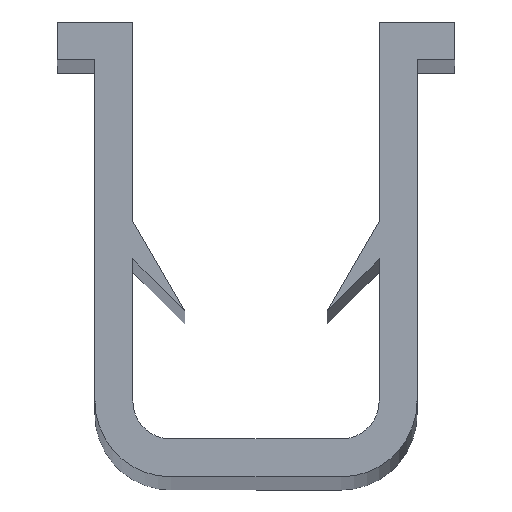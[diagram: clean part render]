
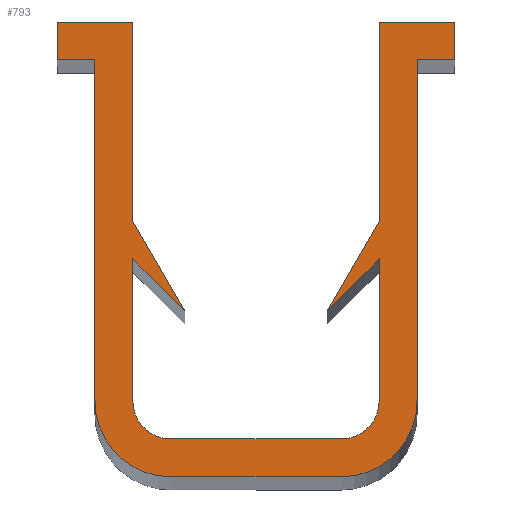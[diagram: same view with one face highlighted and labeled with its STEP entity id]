
A CAD part, top view. The second image highlights one B-rep face of the part: STEP entity #793.
In plain terms, the highlighted planar face has unit normal (0, 0, 1).
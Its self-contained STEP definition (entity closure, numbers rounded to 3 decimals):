
#51=CARTESIAN_POINT('',(3.25,6.748,200.0));
#52=VERTEX_POINT('',#51);
#59=CARTESIAN_POINT('',(3.25,12.,200.0));
#60=VERTEX_POINT('',#59);
#61=CARTESIAN_POINT('',(3.25,6.748,200.0));
#62=DIRECTION('',(0.0,1.0,0.0));
#63=VECTOR('',#62,5.252);
#64=LINE('',#61,#63);
#65=EDGE_CURVE('',#52,#60,#64,.T.);
#91=CARTESIAN_POINT('',(3.25,5.748,200.0));
#92=VERTEX_POINT('',#91);
#107=CARTESIAN_POINT('',(3.25,2.,200.0));
#108=VERTEX_POINT('',#107);
#115=CARTESIAN_POINT('',(3.25,2.,200.0));
#116=DIRECTION('',(0.0,1.0,0.0));
#117=VECTOR('',#116,3.748);
#118=LINE('',#115,#117);
#119=EDGE_CURVE('',#108,#92,#118,.T.);
#129=CARTESIAN_POINT('',(-5.25,12.,200.0));
#130=VERTEX_POINT('',#129);
#131=CARTESIAN_POINT('',(-3.25,12.,200.0));
#132=VERTEX_POINT('',#131);
#133=CARTESIAN_POINT('',(-5.25,12.,200.0));
#134=DIRECTION('',(1.0,0.0,0.0));
#135=VECTOR('',#134,2.0);
#136=LINE('',#133,#135);
#137=EDGE_CURVE('',#130,#132,#136,.T.);
#169=CARTESIAN_POINT('',(-3.25,6.748,200.0));
#170=VERTEX_POINT('',#169);
#171=CARTESIAN_POINT('',(-3.25,12.,200.0));
#172=DIRECTION('',(0.0,-1.0,0.0));
#173=VECTOR('',#172,5.252);
#174=LINE('',#171,#173);
#175=EDGE_CURVE('',#132,#170,#174,.T.);
#200=CARTESIAN_POINT('',(-1.884,4.382,200.0));
#201=VERTEX_POINT('',#200);
#202=CARTESIAN_POINT('',(-3.25,6.748,200.0));
#203=DIRECTION('',(0.5,-0.866,0.0));
#204=VECTOR('',#203,2.732);
#205=LINE('',#202,#204);
#206=EDGE_CURVE('',#170,#201,#205,.T.);
#231=CARTESIAN_POINT('',(-3.25,5.748,200.0));
#232=VERTEX_POINT('',#231);
#233=CARTESIAN_POINT('',(-1.884,4.382,200.0));
#234=DIRECTION('',(-0.707,0.707,0.0));
#235=VECTOR('',#234,1.932);
#236=LINE('',#233,#235);
#237=EDGE_CURVE('',#201,#232,#236,.T.);
#262=CARTESIAN_POINT('',(-3.25,2.,200.0));
#263=VERTEX_POINT('',#262);
#264=CARTESIAN_POINT('',(-3.25,5.748,200.0));
#265=DIRECTION('',(0.0,-1.0,0.0));
#266=VECTOR('',#265,3.748);
#267=LINE('',#264,#266);
#268=EDGE_CURVE('',#232,#263,#267,.T.);
#293=CARTESIAN_POINT('',(-2.25,1.0,200.0));
#294=VERTEX_POINT('',#293);
#295=CARTESIAN_POINT('',(-2.25,2.,200.0));
#296=DIRECTION('',(0.0,0.0,1.0));
#297=DIRECTION('',(1.0,0.0,0.0));
#298=AXIS2_PLACEMENT_3D('',#295,#296,#297);
#299=CIRCLE('',#298,1.);
#300=EDGE_CURVE('',#263,#294,#299,.T.);
#326=CARTESIAN_POINT('',(2.25,1.,200.0));
#327=VERTEX_POINT('',#326);
#328=CARTESIAN_POINT('',(-2.25,1.0,200.0));
#329=DIRECTION('',(1.0,0.0,0.0));
#330=VECTOR('',#329,4.5);
#331=LINE('',#328,#330);
#332=EDGE_CURVE('',#294,#327,#331,.T.);
#357=CARTESIAN_POINT('',(2.25,2.,200.0));
#358=DIRECTION('',(0.0,0.0,1.0));
#359=DIRECTION('',(0.0,1.0,0.0));
#360=AXIS2_PLACEMENT_3D('',#357,#358,#359);
#361=CIRCLE('',#360,1.);
#362=EDGE_CURVE('',#327,#108,#361,.T.);
#381=CARTESIAN_POINT('',(5.25,12.,200.0));
#382=VERTEX_POINT('',#381);
#383=CARTESIAN_POINT('',(3.25,12.,200.0));
#384=DIRECTION('',(1.0,0.0,0.0));
#385=VECTOR('',#384,2.);
#386=LINE('',#383,#385);
#387=EDGE_CURVE('',#60,#382,#386,.T.);
#412=CARTESIAN_POINT('',(5.25,11.0,200.0));
#413=VERTEX_POINT('',#412);
#414=CARTESIAN_POINT('',(5.25,12.,200.0));
#415=DIRECTION('',(0.0,-1.0,0.0));
#416=VECTOR('',#415,1.);
#417=LINE('',#414,#416);
#418=EDGE_CURVE('',#382,#413,#417,.T.);
#443=CARTESIAN_POINT('',(4.25,11.0,200.0));
#444=VERTEX_POINT('',#443);
#445=CARTESIAN_POINT('',(5.25,11.0,200.0));
#446=DIRECTION('',(-1.0,0.0,0.0));
#447=VECTOR('',#446,1.);
#448=LINE('',#445,#447);
#449=EDGE_CURVE('',#413,#444,#448,.T.);
#474=CARTESIAN_POINT('',(4.25,2.,200.0));
#475=VERTEX_POINT('',#474);
#476=CARTESIAN_POINT('',(4.25,11.0,200.0));
#477=DIRECTION('',(0.0,-1.0,0.0));
#478=VECTOR('',#477,9.0);
#479=LINE('',#476,#478);
#480=EDGE_CURVE('',#444,#475,#479,.T.);
#505=CARTESIAN_POINT('',(2.25,0.0,200.0));
#506=VERTEX_POINT('',#505);
#507=CARTESIAN_POINT('',(2.25,2.,200.0));
#508=DIRECTION('',(0.0,0.0,-1.0));
#509=DIRECTION('',(0.0,-1.0,0.0));
#510=AXIS2_PLACEMENT_3D('',#507,#508,#509);
#511=CIRCLE('',#510,2.);
#512=EDGE_CURVE('',#475,#506,#511,.T.);
#538=CARTESIAN_POINT('',(-2.25,0.,200.0));
#539=VERTEX_POINT('',#538);
#540=CARTESIAN_POINT('',(2.25,0.0,200.0));
#541=DIRECTION('',(-1.0,0.0,0.0));
#542=VECTOR('',#541,4.5);
#543=LINE('',#540,#542);
#544=EDGE_CURVE('',#506,#539,#543,.T.);
#569=CARTESIAN_POINT('',(-4.25,2.,200.0));
#570=VERTEX_POINT('',#569);
#571=CARTESIAN_POINT('',(-2.25,2.,200.0));
#572=DIRECTION('',(0.0,0.0,-1.0));
#573=DIRECTION('',(-1.0,0.0,0.0));
#574=AXIS2_PLACEMENT_3D('',#571,#572,#573);
#575=CIRCLE('',#574,2.);
#576=EDGE_CURVE('',#539,#570,#575,.T.);
#602=CARTESIAN_POINT('',(-4.25,11.0,200.0));
#603=VERTEX_POINT('',#602);
#604=CARTESIAN_POINT('',(-4.25,2.,200.0));
#605=DIRECTION('',(0.0,1.0,0.0));
#606=VECTOR('',#605,9.);
#607=LINE('',#604,#606);
#608=EDGE_CURVE('',#570,#603,#607,.T.);
#633=CARTESIAN_POINT('',(-5.25,11.0,200.0));
#634=VERTEX_POINT('',#633);
#635=CARTESIAN_POINT('',(-4.25,11.0,200.0));
#636=DIRECTION('',(-1.0,0.0,0.0));
#637=VECTOR('',#636,1.0);
#638=LINE('',#635,#637);
#639=EDGE_CURVE('',#603,#634,#638,.T.);
#664=CARTESIAN_POINT('',(-5.25,11.0,200.0));
#665=DIRECTION('',(0.0,1.0,0.0));
#666=VECTOR('',#665,1.);
#667=LINE('',#664,#666);
#668=EDGE_CURVE('',#634,#130,#667,.T.);
#686=CARTESIAN_POINT('',(1.884,4.382,200.0));
#687=VERTEX_POINT('',#686);
#688=CARTESIAN_POINT('',(3.25,5.748,200.0));
#689=DIRECTION('',(-0.707,-0.707,0.0));
#690=VECTOR('',#689,1.932);
#691=LINE('',#688,#690);
#692=EDGE_CURVE('',#92,#687,#691,.T.);
#717=CARTESIAN_POINT('',(1.884,4.382,200.0));
#718=DIRECTION('',(0.5,0.866,0.0));
#719=VECTOR('',#718,2.732);
#720=LINE('',#717,#719);
#721=EDGE_CURVE('',#687,#52,#720,.T.);
#764=CARTESIAN_POINT('',(2.688,5.515,200.0));
#765=DIRECTION('',(0.0,0.0,1.0));
#766=DIRECTION('',(1.0,0.0,0.0));
#767=AXIS2_PLACEMENT_3D('',#764,#765,#766);
#768=PLANE('',#767);
#769=ORIENTED_EDGE('',*,*,#721,.F.);
#770=ORIENTED_EDGE('',*,*,#692,.F.);
#771=ORIENTED_EDGE('',*,*,#119,.F.);
#772=ORIENTED_EDGE('',*,*,#362,.F.);
#773=ORIENTED_EDGE('',*,*,#332,.F.);
#774=ORIENTED_EDGE('',*,*,#300,.F.);
#775=ORIENTED_EDGE('',*,*,#268,.F.);
#776=ORIENTED_EDGE('',*,*,#237,.F.);
#777=ORIENTED_EDGE('',*,*,#206,.F.);
#778=ORIENTED_EDGE('',*,*,#175,.F.);
#779=ORIENTED_EDGE('',*,*,#137,.F.);
#780=ORIENTED_EDGE('',*,*,#668,.F.);
#781=ORIENTED_EDGE('',*,*,#639,.F.);
#782=ORIENTED_EDGE('',*,*,#608,.F.);
#783=ORIENTED_EDGE('',*,*,#576,.F.);
#784=ORIENTED_EDGE('',*,*,#544,.F.);
#785=ORIENTED_EDGE('',*,*,#512,.F.);
#786=ORIENTED_EDGE('',*,*,#480,.F.);
#787=ORIENTED_EDGE('',*,*,#449,.F.);
#788=ORIENTED_EDGE('',*,*,#418,.F.);
#789=ORIENTED_EDGE('',*,*,#387,.F.);
#790=ORIENTED_EDGE('',*,*,#65,.F.);
#791=EDGE_LOOP('',(#769,#770,#771,#772,#773,#774,#775,#776,#777,#778,#779,#780,#781,#782,#783,#784,#785,#786,#787,#788,#789,#790));
#792=FACE_OUTER_BOUND('',#791,.T.);
#793=ADVANCED_FACE('',(#792),#768,.T.);
